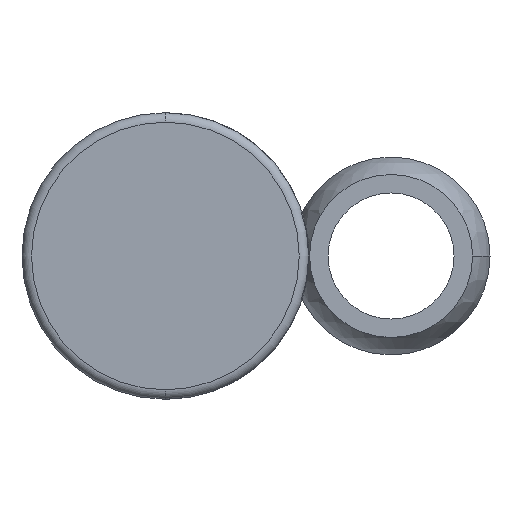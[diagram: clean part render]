
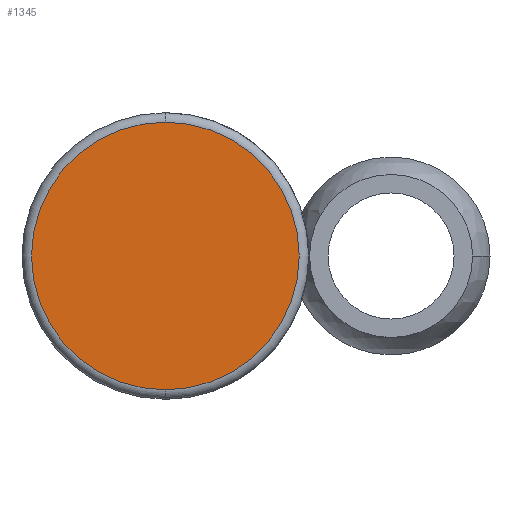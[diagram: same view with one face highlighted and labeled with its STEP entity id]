
A CAD part, front view. The second image highlights one B-rep face of the part: STEP entity #1345.
In plain terms, the highlighted planar face has unit normal (0, -1, 0).
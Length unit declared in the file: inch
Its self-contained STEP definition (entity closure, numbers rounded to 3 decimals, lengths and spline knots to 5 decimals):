
#14 = VERTEX_POINT ( 'NONE', #1079 ) ;
#144 = CARTESIAN_POINT ( 'NONE',  ( 0., -1.575, 0. ) ) ;
#181 = DIRECTION ( 'NONE',  ( 0., -1., 0. ) ) ;
#241 = FACE_OUTER_BOUND ( 'NONE', #1340, .T. ) ;
#292 = CARTESIAN_POINT ( 'NONE',  ( 0., -1.575, 0. ) ) ;
#355 = DIRECTION ( 'NONE',  ( 0., 0., 1. ) ) ;
#363 = DIRECTION ( 'NONE',  ( 0., -1., 0. ) ) ;
#474 = AXIS2_PLACEMENT_3D ( 'NONE', #882, #363, #666 ) ;
#545 = AXIS2_PLACEMENT_3D ( 'NONE', #144, #993, #355 ) ;
#593 = DIRECTION ( 'NONE',  ( 0., 0., 1. ) ) ;
#629 = CIRCLE ( 'NONE', #756, 0.42276 ) ;
#666 = DIRECTION ( 'NONE',  ( 0., 0., 1. ) ) ;
#756 = AXIS2_PLACEMENT_3D ( 'NONE', #292, #181, #593 ) ;
#768 = PLANE ( 'NONE',  #545 ) ;
#847 = ORIENTED_EDGE ( 'NONE', *, *, #880, .T. ) ;
#880 = EDGE_CURVE ( 'NONE', #14, #1229, #629, .T. ) ;
#882 = CARTESIAN_POINT ( 'NONE',  ( 0., -1.575, 0. ) ) ;
#993 = DIRECTION ( 'NONE',  ( 0., 1., 0. ) ) ;
#1009 = ORIENTED_EDGE ( 'NONE', *, *, #1294, .T. ) ;
#1061 = CARTESIAN_POINT ( 'NONE',  ( 0., -1.575, 0.42276 ) ) ;
#1079 = CARTESIAN_POINT ( 'NONE',  ( 0., -1.575, -0.42276 ) ) ;
#1144 = CIRCLE ( 'NONE', #474, 0.42276 ) ;
#1229 = VERTEX_POINT ( 'NONE', #1061 ) ;
#1294 = EDGE_CURVE ( 'NONE', #1229, #14, #1144, .T. ) ;
#1340 = EDGE_LOOP ( 'NONE', ( #1009, #847 ) ) ;
#1345 = ADVANCED_FACE ( 'NONE', ( #241 ), #768, .F. ) ;
